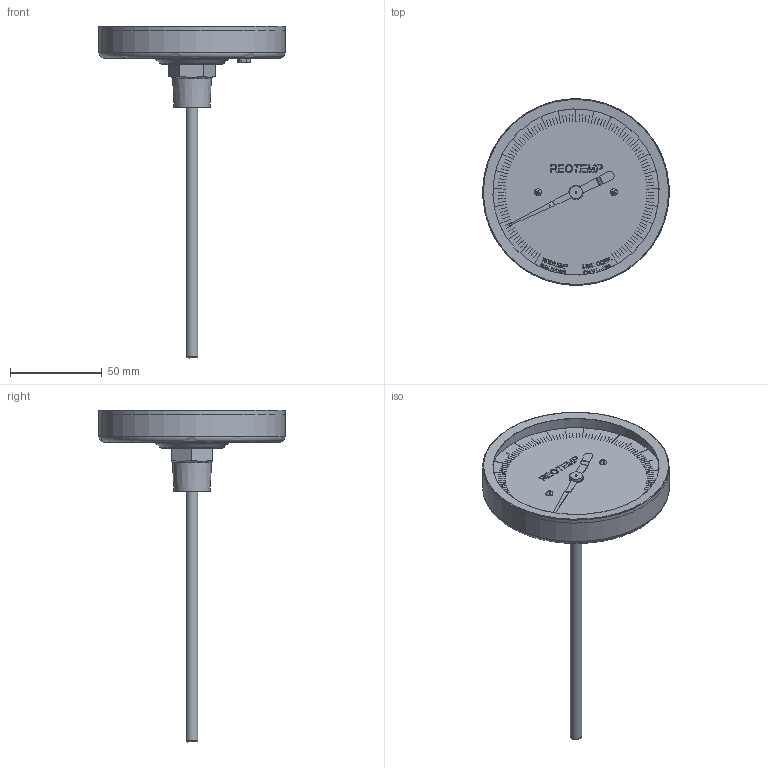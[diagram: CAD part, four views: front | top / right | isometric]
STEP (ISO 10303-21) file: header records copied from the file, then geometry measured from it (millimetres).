
FILE_DESCRIPTION(/* description */ (''),/* implementation_level */ '2;1');
FILE_NAME(/* name */ 'P:\3D Drawings\CC\CC-half-NPT\CC-half-NPT-STP\CC-half-NPT-STP.stp',/* time_stamp */ '2015-11-09T11:19:26-08:00',/* author */ ('charles'),/* organization */ (''),/* preprocessor_version */ 'ST-DEVELOPER v15.2',/* originating_system */ 'Autodesk Inventor 2014',/* authorisation */ '');
FILE_SCHEMA (('AUTOMOTIVE_DESIGN { 1 0 10303 214 3 1 1 }'));
Length unit declared in the file: inch
Products named in the file (1): CC-half-NPT
Bounding box: 101.52 x 101.51 x 180.77 mm (x, y, z)
Volume: 62862.8 mm3; surface area: 48383.6 mm2
Topology: 16 solids, 16 shells, 1274 faces, 3278 edges, 2174 vertices
Faces by surface type: plane 1033, bspline 201, cylinder 26, torus 9, cone 5
Full cylindrical faces by diameter (mm): 0.778 x1, 1.067 x1, 2.286 x2, 3.175 x1, 6.071 x1, 6.35 x1, 6.934 x1, 6.985 x1, 90.467 x1, 95.758 x1, 99.415 x1, 101.283 x1, 101.6 x1
Entity records: 41144 total; most frequent: CARTESIAN_POINT 10237, ORIENTED_EDGE 6484, DIRECTION 5017, EDGE_CURVE 3242, LINE 2753, VECTOR 2753, VERTEX_POINT 2166, EDGE_LOOP 1526
